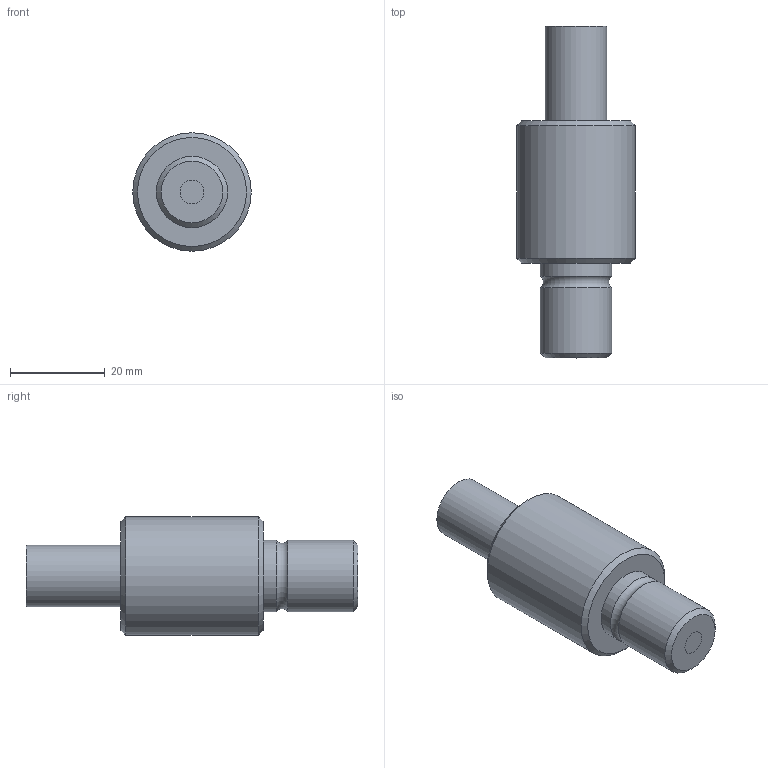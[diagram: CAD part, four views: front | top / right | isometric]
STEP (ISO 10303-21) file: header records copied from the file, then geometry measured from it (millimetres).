
FILE_DESCRIPTION(/* description */ (''),/* implementation_level */ '2;1');
FILE_NAME(/* name */ '',/* time_stamp */ '2023-07-26T15:58:39+09:00',/* author */ (''),/* organization */ (''),/* preprocessor_version */ 'ST-DEVELOPER v20',/* originating_system */ 'Autodesk Translation Framework v12.9.0.99',/* authorisation */ '');
FILE_SCHEMA (('AUTOMOTIVE_DESIGN { 1 0 10303 214 3 1 1 }'));
Length unit declared in the file: millimetre
Products named in the file (1): QLGC1-5L 共通受光部
Bounding box: 25 x 70 x 25 mm (x, y, z)
Volume: 20770.3 mm3; surface area: 7410.1 mm2
Topology: 3 solids, 3 shells, 18 faces, 28 edges, 17 vertices
Faces by surface type: plane 7, cylinder 7, cone 3, torus 1
Full cylindrical faces by diameter (mm): 5 x3, 13 x1, 15 x2, 25 x1
Entity records: 449 total; most frequent: DIRECTION 84, CARTESIAN_POINT 64, ORIENTED_EDGE 56, AXIS2_PLACEMENT_3D 37, EDGE_CURVE 28, EDGE_LOOP 23, FACE_OUTER_BOUND 18, CIRCLE 18
